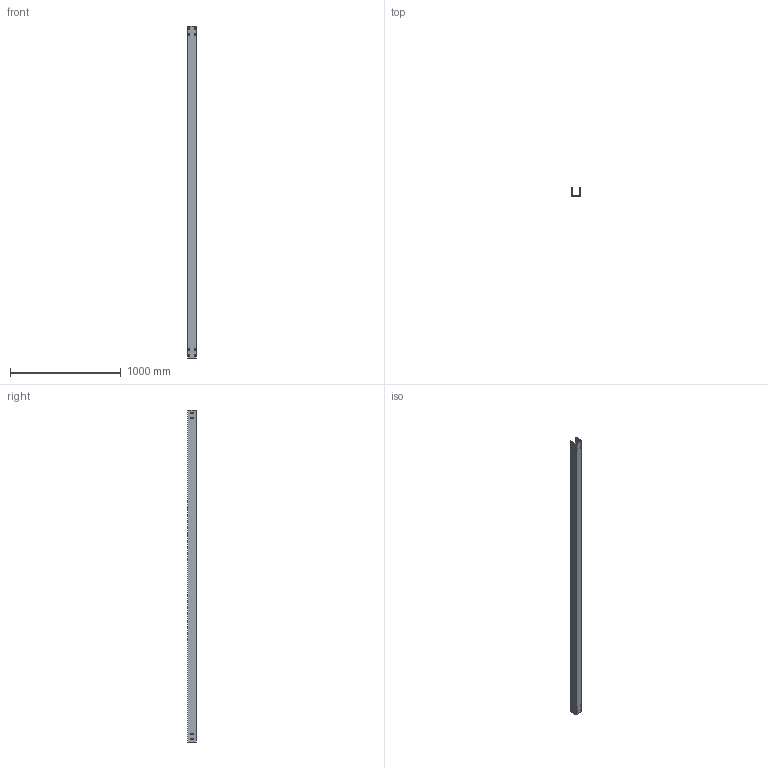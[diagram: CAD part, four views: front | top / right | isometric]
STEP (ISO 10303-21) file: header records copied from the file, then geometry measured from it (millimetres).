
FILE_DESCRIPTION (( 'STEP AP214' ), '1' );
FILE_NAME ('CF_757.step', '2025-07-16T09:06:36', ( '' ), ( '' ), 'SwSTEP 2.0', 'SolidWorks 2023', '' );
FILE_SCHEMA (( 'AUTOMOTIVE_DESIGN' ));
Length unit declared in the file: millimetre
Products named in the file (1): CF_757
Bounding box: 75 x 75 x 3000 mm (x, y, z)
Volume: 995640 mm3; surface area: 1338650 mm2
Topology: 1 solids, 1 shells, 106 faces, 312 edges, 208 vertices
Faces by surface type: plane 106
Entity records: 3575 total; most frequent: CARTESIAN_POINT 627, ORIENTED_EDGE 624, DIRECTION 526, EDGE_CURVE 312, LINE 312, VECTOR 312, VERTEX_POINT 208, EDGE_LOOP 154
